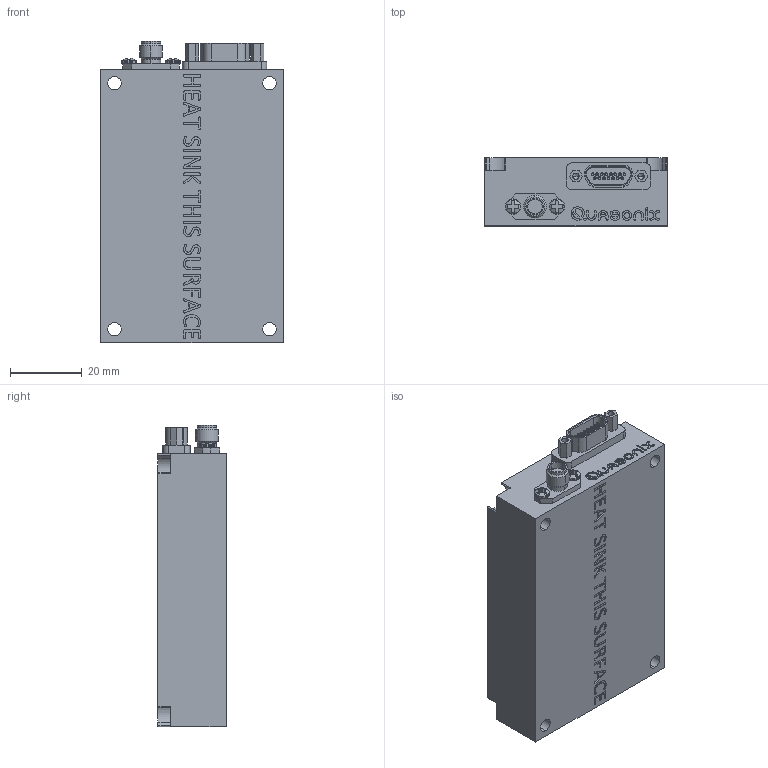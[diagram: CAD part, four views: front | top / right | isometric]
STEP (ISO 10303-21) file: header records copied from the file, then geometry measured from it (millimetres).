
FILE_DESCRIPTION (( 'STEP AP203' ), '1' );
FILE_NAME ('QS-TX-04AKXXX.STEP', '2020-10-08T12:21:49', ( '' ), ( '' ), 'SwSTEP 2.0', 'SolidWorks 2018', '' );
FILE_SCHEMA (( 'CONFIG_CONTROL_DESIGN' ));
Length unit declared in the file: millimetre
Products named in the file (1): QS-TX-04AKXXX
Bounding box: 50.8 x 19.05 x 84.14 mm (x, y, z)
Volume: 73342.5 mm3; surface area: 15174.2 mm2
Topology: 7 solids, 7 shells, 792 faces, 2033 edges, 1331 vertices
Faces by surface type: plane 318, bspline 252, cylinder 157, cone 49, torus 12, sphere 4
Entity records: 32884 total; most frequent: CARTESIAN_POINT 14980, ORIENTED_EDGE 4058, DIRECTION 2981, EDGE_CURVE 2029, VERTEX_POINT 1331, VECTOR 1097, LINE 1097, AXIS2_PLACEMENT_3D 942
